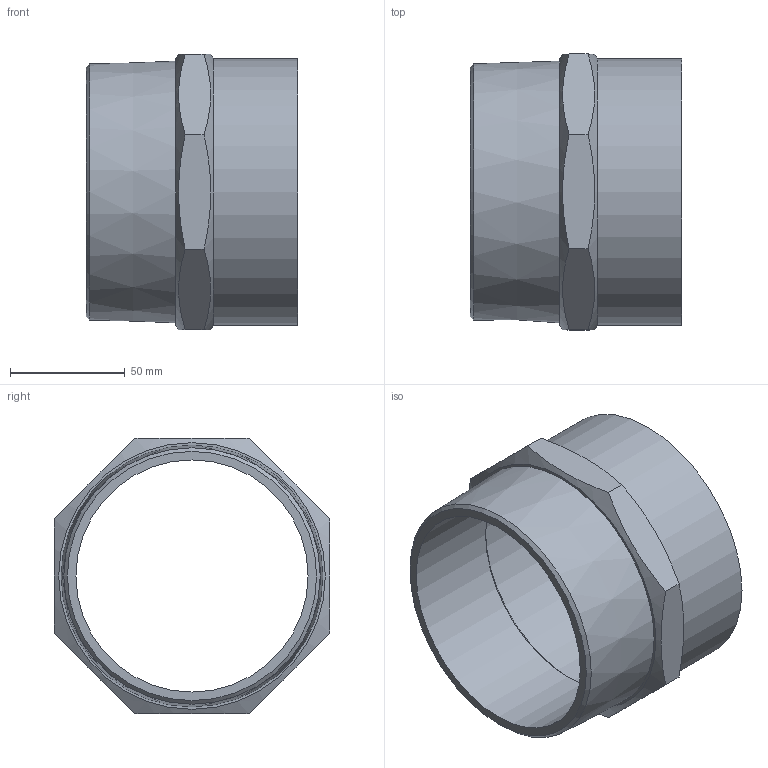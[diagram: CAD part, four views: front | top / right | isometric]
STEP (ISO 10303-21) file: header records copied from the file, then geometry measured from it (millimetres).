
FILE_DESCRIPTION((''),'2;1');
FILE_NAME('\\Lg50001\Groups\SANHA Legnica\Engineering\Public\RYSUNKI\SANHA POLSKA\4243G\step\14243_108-4(2).stp','2008-08-27T13:37:35',('pajchrowski'),(''),'Autodesk Inventor 2008','Autodesk Inventor 2008','');
FILE_SCHEMA(('AUTOMOTIVE_DESIGN { 1 0 10303 214 1 1 1 1 }'));
Length unit declared in the file: millimetre
Products named in the file (1): 14243_108-4(1)
Bounding box: 92 x 120 x 120 mm (x, y, z)
Volume: 174892.8 mm3; surface area: 69472.5 mm2
Topology: 1 solids, 1 shells, 20 faces, 45 edges, 29 vertices
Faces by surface type: plane 12, cone 5, cylinder 3
Full cylindrical faces by diameter (mm): 101 x1, 108 x1, 116 x1
Entity records: 512 total; most frequent: CARTESIAN_POINT 115, DIRECTION 72, ORIENTED_EDGE 70, EDGE_CURVE 35, AXIS2_PLACEMENT_3D 32, EDGE_LOOP 32, VERTEX_POINT 27, FACE_OUTER_BOUND 20
